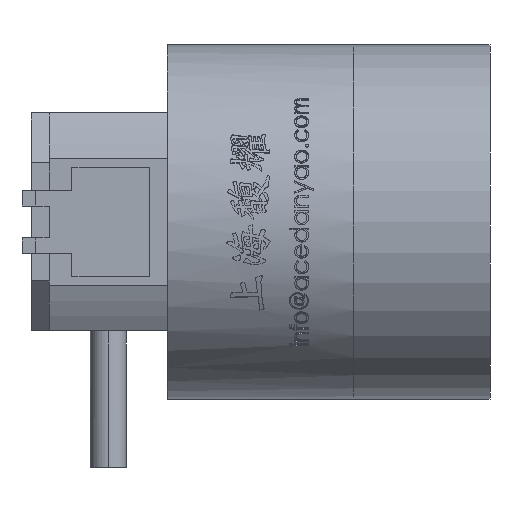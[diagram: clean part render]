
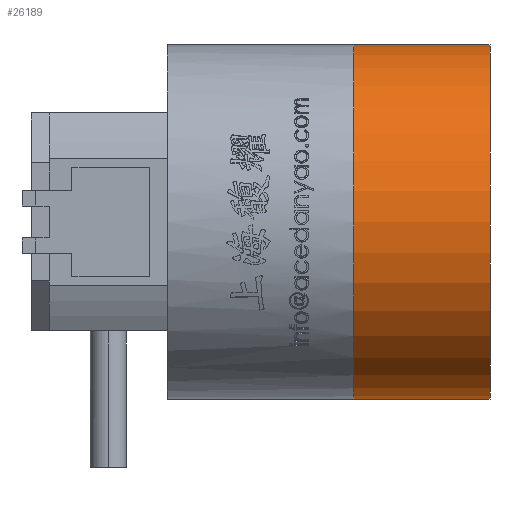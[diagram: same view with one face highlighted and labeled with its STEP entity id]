
A CAD part, left-side view. The second image highlights one B-rep face of the part: STEP entity #26189.
In plain terms, the highlighted cylindrical face has radius 19.5 mm (diameter 39 mm), a partial arc.
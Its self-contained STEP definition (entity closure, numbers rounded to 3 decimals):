
#474 = DIRECTION ( 'NONE',  ( 0., 0., -1. ) ) ;
#1202 = EDGE_CURVE ( 'NONE', #39688, #70648, #33663, .T. ) ;
#9177 = ORIENTED_EDGE ( 'NONE', *, *, #48765, .F. ) ;
#12024 = DIRECTION ( 'NONE',  ( 0., -1., 0. ) ) ;
#12044 = EDGE_LOOP ( 'NONE', ( #9177, #50103, #39731, #22792 ) ) ;
#14452 = LINE ( 'NONE', #48127, #58483 ) ;
#19835 = EDGE_CURVE ( 'NONE', #39688, #66846, #14452, .T. ) ;
#20429 = AXIS2_PLACEMENT_3D ( 'NONE', #68086, #33591, #73843 ) ;
#22792 = ORIENTED_EDGE ( 'NONE', *, *, #64634, .T. ) ;
#25023 = CIRCLE ( 'NONE', #68564, 19.5 ) ;
#26107 = DIRECTION ( 'NONE',  ( 0., -1., 0. ) ) ;
#26189 = ADVANCED_FACE ( 'NONE', ( #32252 ), #43923, .T. ) ;
#27545 = CARTESIAN_POINT ( 'NONE',  ( 0., 15., -19.5 ) ) ;
#32252 = FACE_OUTER_BOUND ( 'NONE', #12044, .T. ) ;
#33294 = CARTESIAN_POINT ( 'NONE',  ( 0., 0., 0. ) ) ;
#33591 = DIRECTION ( 'NONE',  ( 0., 1., 0. ) ) ;
#33663 = CIRCLE ( 'NONE', #20429, 19.5 ) ;
#39075 = DIRECTION ( 'NONE',  ( 0., 0., -1. ) ) ;
#39688 = VERTEX_POINT ( 'NONE', #27545 ) ;
#39731 = ORIENTED_EDGE ( 'NONE', *, *, #19835, .T. ) ;
#43923 = CYLINDRICAL_SURFACE ( 'NONE', #52556, 19.5 ) ;
#43978 = CARTESIAN_POINT ( 'NONE',  ( 0., 0., -19.5 ) ) ;
#48127 = CARTESIAN_POINT ( 'NONE',  ( 0., 15., -19.5 ) ) ;
#48765 = EDGE_CURVE ( 'NONE', #70648, #63078, #72194, .T. ) ;
#48992 = CARTESIAN_POINT ( 'NONE',  ( 0., 15., 19.5 ) ) ;
#50103 = ORIENTED_EDGE ( 'NONE', *, *, #1202, .F. ) ;
#52217 = CARTESIAN_POINT ( 'NONE',  ( 0., 15., 0. ) ) ;
#52556 = AXIS2_PLACEMENT_3D ( 'NONE', #52217, #12024, #474 ) ;
#53917 = DIRECTION ( 'NONE',  ( 0., -1., 0. ) ) ;
#58483 = VECTOR ( 'NONE', #53917, 1000. ) ;
#63078 = VERTEX_POINT ( 'NONE', #74180 ) ;
#64634 = EDGE_CURVE ( 'NONE', #66846, #63078, #25023, .T. ) ;
#66846 = VERTEX_POINT ( 'NONE', #43978 ) ;
#68086 = CARTESIAN_POINT ( 'NONE',  ( 0., 15., 0. ) ) ;
#68564 = AXIS2_PLACEMENT_3D ( 'NONE', #33294, #73566, #39075 ) ;
#68567 = VECTOR ( 'NONE', #26107, 1000. ) ;
#70394 = CARTESIAN_POINT ( 'NONE',  ( 0., 15., 19.5 ) ) ;
#70648 = VERTEX_POINT ( 'NONE', #70394 ) ;
#72194 = LINE ( 'NONE', #48992, #68567 ) ;
#73566 = DIRECTION ( 'NONE',  ( 0., 1., 0. ) ) ;
#73843 = DIRECTION ( 'NONE',  ( 0., 0., -1. ) ) ;
#74180 = CARTESIAN_POINT ( 'NONE',  ( 0., 0., 19.5 ) ) ;
